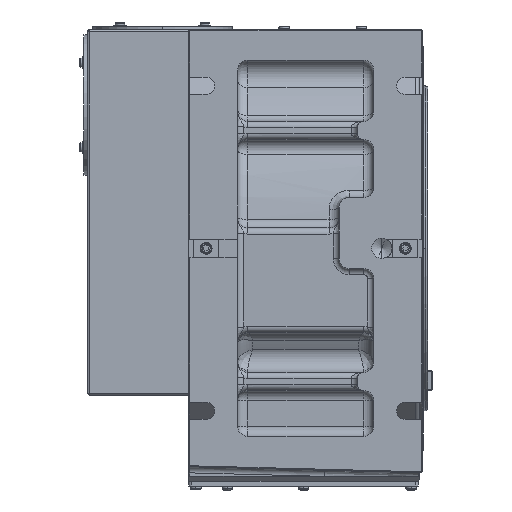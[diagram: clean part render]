
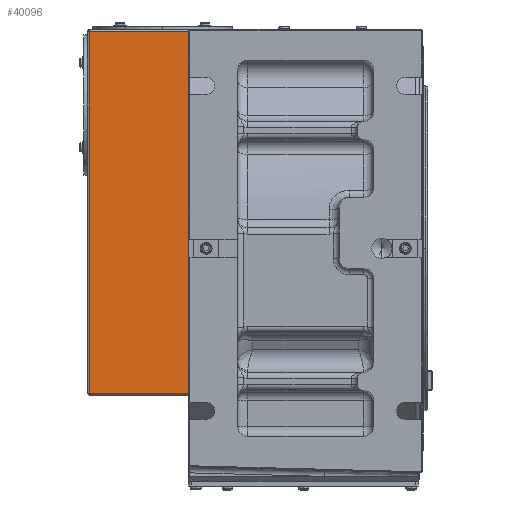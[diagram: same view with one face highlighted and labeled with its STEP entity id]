
A CAD part, front view. The second image highlights one B-rep face of the part: STEP entity #40096.
In plain terms, the highlighted planar face has unit normal (0, -1, 0).
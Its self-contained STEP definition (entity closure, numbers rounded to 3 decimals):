
#14008 = VECTOR ( 'NONE', #65326, 1000. ) ;
#14065 = ORIENTED_EDGE ( 'NONE', *, *, #75413, .T. ) ;
#19041 = CARTESIAN_POINT ( 'NONE',  ( 58., 230., 215. ) ) ;
#25509 = CARTESIAN_POINT ( 'NONE',  ( 60., 230., 213. ) ) ;
#25635 = VERTEX_POINT ( 'NONE', #73914 ) ;
#27281 = DIRECTION ( 'NONE',  ( 1., 0., 0. ) ) ;
#40096 = ADVANCED_FACE ( 'NONE', ( #74367 ), #158617, .F. ) ;
#40397 = VERTEX_POINT ( 'NONE', #85956 ) ;
#40796 = LINE ( 'NONE', #94741, #74816 ) ;
#48273 = LINE ( 'NONE', #19041, #97935 ) ;
#53206 = VERTEX_POINT ( 'NONE', #166632 ) ;
#56650 = AXIS2_PLACEMENT_3D ( 'NONE', #160364, #78740, #107966 ) ;
#62546 = EDGE_CURVE ( 'NONE', #53206, #40397, #40796, .T. ) ;
#65326 = DIRECTION ( 'NONE',  ( -1., 0., 0. ) ) ;
#69905 = EDGE_CURVE ( 'NONE', #169598, #53206, #135296, .T. ) ;
#73404 = ORIENTED_EDGE ( 'NONE', *, *, #120421, .T. ) ;
#73914 = CARTESIAN_POINT ( 'NONE',  ( 58., 230., -143. ) ) ;
#74367 = FACE_OUTER_BOUND ( 'NONE', #136963, .T. ) ;
#74816 = VECTOR ( 'NONE', #149660, 1000. ) ;
#75413 = EDGE_CURVE ( 'NONE', #25635, #169598, #48273, .T. ) ;
#78740 = DIRECTION ( 'NONE',  ( 0., 1., 0. ) ) ;
#80678 = ORIENTED_EDGE ( 'NONE', *, *, #62546, .T. ) ;
#82788 = CARTESIAN_POINT ( 'NONE',  ( 58., 230., 213. ) ) ;
#85956 = CARTESIAN_POINT ( 'NONE',  ( -265., 230., -143. ) ) ;
#94741 = CARTESIAN_POINT ( 'NONE',  ( -265., 230., 215. ) ) ;
#97120 = CARTESIAN_POINT ( 'NONE',  ( 58., 230., -143. ) ) ;
#97935 = VECTOR ( 'NONE', #112039, 1000. ) ;
#107966 = DIRECTION ( 'NONE',  ( 1., 0., 0. ) ) ;
#112039 = DIRECTION ( 'NONE',  ( 0., 0., 1. ) ) ;
#120421 = EDGE_CURVE ( 'NONE', #40397, #25635, #137936, .T. ) ;
#135296 = LINE ( 'NONE', #25509, #14008 ) ;
#136963 = EDGE_LOOP ( 'NONE', ( #80678, #73404, #14065, #145694 ) ) ;
#137936 = LINE ( 'NONE', #97120, #158911 ) ;
#145694 = ORIENTED_EDGE ( 'NONE', *, *, #69905, .T. ) ;
#149660 = DIRECTION ( 'NONE',  ( 0., 0., -1. ) ) ;
#158617 = PLANE ( 'NONE',  #56650 ) ;
#158911 = VECTOR ( 'NONE', #27281, 1000. ) ;
#160364 = CARTESIAN_POINT ( 'NONE',  ( 60., 230., 215. ) ) ;
#166632 = CARTESIAN_POINT ( 'NONE',  ( -265., 230., 213. ) ) ;
#169598 = VERTEX_POINT ( 'NONE', #82788 ) ;
